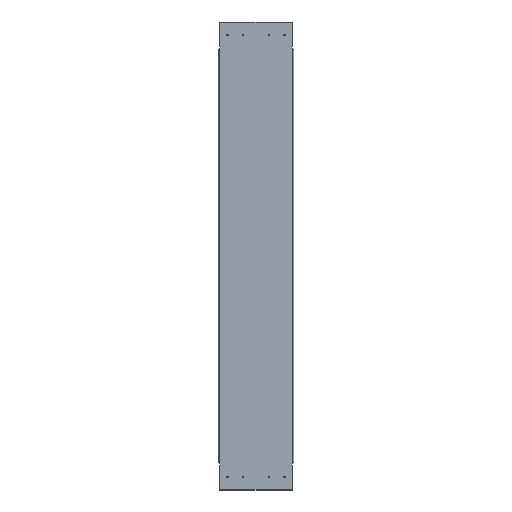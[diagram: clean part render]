
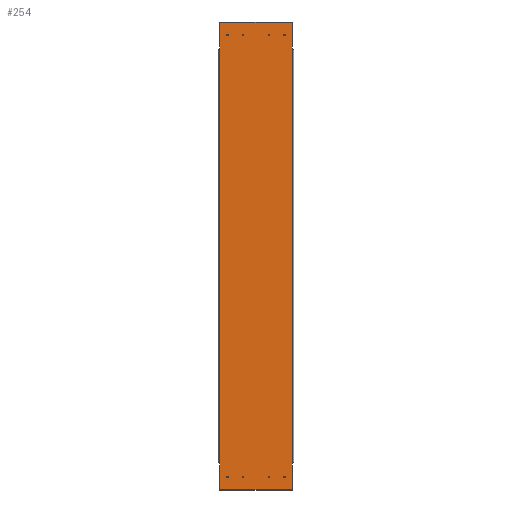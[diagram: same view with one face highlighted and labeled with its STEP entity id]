
A CAD part, top view. The second image highlights one B-rep face of the part: STEP entity #254.
In plain terms, the highlighted planar face has unit normal (0, 0, 1).
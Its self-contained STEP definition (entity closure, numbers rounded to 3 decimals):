
#59=CARTESIAN_POINT('',(1580.,-206.5,287.5));
#60=DIRECTION('',(-0.,-0.,1.));
#61=DIRECTION('',(0.,1.,0.));
#62=AXIS2_PLACEMENT_3D('',#59,#60,#61);
#63=PLANE('',#62);
#64=CARTESIAN_POINT('',(1590.,230.9,287.5));
#65=VERTEX_POINT('',#64);
#66=CARTESIAN_POINT('',(1590.,233.5,287.5));
#67=DIRECTION('',(-0.,-0.,1.));
#68=DIRECTION('',(0.,-1.,-0.));
#69=AXIS2_PLACEMENT_3D('',#66,#67,#68);
#70=CIRCLE('',#69,2.6);
#71=EDGE_CURVE('',#65,#65,#70,.T.);
#72=ORIENTED_EDGE('',*,*,#71,.F.);
#73=EDGE_LOOP('',(#72));
#74=FACE_BOUND('',#73,.T.);
#75=CARTESIAN_POINT('',(1530.,230.9,287.5));
#76=VERTEX_POINT('',#75);
#77=CARTESIAN_POINT('',(1530.,233.5,287.5));
#78=DIRECTION('',(-0.,-0.,1.));
#79=DIRECTION('',(0.,-1.,-0.));
#80=AXIS2_PLACEMENT_3D('',#77,#78,#79);
#81=CIRCLE('',#80,2.6);
#82=EDGE_CURVE('',#76,#76,#81,.T.);
#83=ORIENTED_EDGE('',*,*,#82,.F.);
#84=EDGE_LOOP('',(#83));
#85=FACE_BOUND('',#84,.T.);
#86=CARTESIAN_POINT('',(1430.,230.9,287.5));
#87=VERTEX_POINT('',#86);
#88=CARTESIAN_POINT('',(1430.,233.5,287.5));
#89=DIRECTION('',(-0.,-0.,1.));
#90=DIRECTION('',(0.,-1.,-0.));
#91=AXIS2_PLACEMENT_3D('',#88,#89,#90);
#92=CIRCLE('',#91,2.6);
#93=EDGE_CURVE('',#87,#87,#92,.T.);
#94=ORIENTED_EDGE('',*,*,#93,.F.);
#95=EDGE_LOOP('',(#94));
#96=FACE_BOUND('',#95,.T.);
#97=CARTESIAN_POINT('',(1370.,230.9,287.5));
#98=VERTEX_POINT('',#97);
#99=CARTESIAN_POINT('',(1370.,233.5,287.5));
#100=DIRECTION('',(-0.,-0.,1.));
#101=DIRECTION('',(0.,-1.,-0.));
#102=AXIS2_PLACEMENT_3D('',#99,#100,#101);
#103=CIRCLE('',#102,2.6);
#104=EDGE_CURVE('',#98,#98,#103,.T.);
#105=ORIENTED_EDGE('',*,*,#104,.F.);
#106=EDGE_LOOP('',(#105));
#107=FACE_BOUND('',#106,.T.);
#108=CARTESIAN_POINT('',(1590.,1930.9,287.5));
#109=VERTEX_POINT('',#108);
#110=CARTESIAN_POINT('',(1590.,1933.5,287.5));
#111=DIRECTION('',(-0.,-0.,1.));
#112=DIRECTION('',(0.,-1.,-0.));
#113=AXIS2_PLACEMENT_3D('',#110,#111,#112);
#114=CIRCLE('',#113,2.6);
#115=EDGE_CURVE('',#109,#109,#114,.T.);
#116=ORIENTED_EDGE('',*,*,#115,.F.);
#117=EDGE_LOOP('',(#116));
#118=FACE_BOUND('',#117,.T.);
#119=CARTESIAN_POINT('',(1530.,1930.9,287.5));
#120=VERTEX_POINT('',#119);
#121=CARTESIAN_POINT('',(1530.,1933.5,287.5));
#122=DIRECTION('',(-0.,-0.,1.));
#123=DIRECTION('',(0.,-1.,-0.));
#124=AXIS2_PLACEMENT_3D('',#121,#122,#123);
#125=CIRCLE('',#124,2.6);
#126=EDGE_CURVE('',#120,#120,#125,.T.);
#127=ORIENTED_EDGE('',*,*,#126,.F.);
#128=EDGE_LOOP('',(#127));
#129=FACE_BOUND('',#128,.T.);
#130=CARTESIAN_POINT('',(1370.,1930.9,287.5));
#131=VERTEX_POINT('',#130);
#132=CARTESIAN_POINT('',(1370.,1933.5,287.5));
#133=DIRECTION('',(-0.,-0.,1.));
#134=DIRECTION('',(0.,-1.,-0.));
#135=AXIS2_PLACEMENT_3D('',#132,#133,#134);
#136=CIRCLE('',#135,2.6);
#137=EDGE_CURVE('',#131,#131,#136,.T.);
#138=ORIENTED_EDGE('',*,*,#137,.F.);
#139=EDGE_LOOP('',(#138));
#140=FACE_BOUND('',#139,.T.);
#141=CARTESIAN_POINT('',(1430.,1930.9,287.5));
#142=VERTEX_POINT('',#141);
#143=CARTESIAN_POINT('',(1430.,1933.5,287.5));
#144=DIRECTION('',(-0.,-0.,1.));
#145=DIRECTION('',(0.,-1.,-0.));
#146=AXIS2_PLACEMENT_3D('',#143,#144,#145);
#147=CIRCLE('',#146,2.6);
#148=EDGE_CURVE('',#142,#142,#147,.T.);
#149=ORIENTED_EDGE('',*,*,#148,.F.);
#150=EDGE_LOOP('',(#149));
#151=FACE_BOUND('',#150,.T.);
#152=CARTESIAN_POINT('',(1620.,287.5,287.5));
#153=VERTEX_POINT('',#152);
#154=CARTESIAN_POINT('',(1620.,184.5,287.5));
#155=VERTEX_POINT('',#154);
#156=CARTESIAN_POINT('',(1620.,287.5,287.5));
#157=DIRECTION('',(0.,-1.,-0.));
#158=VECTOR('',#157,103.);
#159=LINE('',#156,#158);
#160=EDGE_CURVE('',#153,#155,#159,.T.);
#161=ORIENTED_EDGE('',*,*,#160,.F.);
#162=CARTESIAN_POINT('',(1620.,1879.5,287.5));
#163=VERTEX_POINT('',#162);
#164=CARTESIAN_POINT('',(1620.,287.5,287.5));
#165=DIRECTION('',(0.,1.,0.));
#166=VECTOR('',#165,1592.);
#167=LINE('',#164,#166);
#168=EDGE_CURVE('',#153,#163,#167,.T.);
#169=ORIENTED_EDGE('',*,*,#168,.T.);
#170=CARTESIAN_POINT('',(1620.,1982.5,287.5));
#171=VERTEX_POINT('',#170);
#172=CARTESIAN_POINT('',(1620.,1879.5,287.5));
#173=DIRECTION('',(0.,1.,0.));
#174=VECTOR('',#173,103.);
#175=LINE('',#172,#174);
#176=EDGE_CURVE('',#163,#171,#175,.T.);
#177=ORIENTED_EDGE('',*,*,#176,.T.);
#178=CARTESIAN_POINT('',(1619.,1983.5,287.5));
#179=VERTEX_POINT('',#178);
#180=CARTESIAN_POINT('',(1619.,1982.5,287.5));
#181=DIRECTION('',(-0.,-0.,1.));
#182=DIRECTION('',(0.,-1.,-0.));
#183=AXIS2_PLACEMENT_3D('',#180,#181,#182);
#184=CIRCLE('',#183,1.);
#185=EDGE_CURVE('',#171,#179,#184,.T.);
#186=ORIENTED_EDGE('',*,*,#185,.T.);
#187=CARTESIAN_POINT('',(1341.,1983.5,287.5));
#188=VERTEX_POINT('',#187);
#189=CARTESIAN_POINT('',(1619.,1983.5,287.5));
#190=DIRECTION('',(-1.,0.,0.));
#191=VECTOR('',#190,278.);
#192=LINE('',#189,#191);
#193=EDGE_CURVE('',#179,#188,#192,.T.);
#194=ORIENTED_EDGE('',*,*,#193,.T.);
#195=CARTESIAN_POINT('',(1340.,1982.5,287.5));
#196=VERTEX_POINT('',#195);
#197=CARTESIAN_POINT('',(1341.,1982.5,287.5));
#198=DIRECTION('',(-0.,-0.,1.));
#199=DIRECTION('',(0.,-1.,-0.));
#200=AXIS2_PLACEMENT_3D('',#197,#198,#199);
#201=CIRCLE('',#200,1.);
#202=EDGE_CURVE('',#188,#196,#201,.T.);
#203=ORIENTED_EDGE('',*,*,#202,.T.);
#204=CARTESIAN_POINT('',(1340.,1879.5,287.5));
#205=VERTEX_POINT('',#204);
#206=CARTESIAN_POINT('',(1340.,1879.5,287.5));
#207=DIRECTION('',(0.,1.,0.));
#208=VECTOR('',#207,103.);
#209=LINE('',#206,#208);
#210=EDGE_CURVE('',#205,#196,#209,.T.);
#211=ORIENTED_EDGE('',*,*,#210,.F.);
#212=CARTESIAN_POINT('',(1340.,287.5,287.5));
#213=VERTEX_POINT('',#212);
#214=CARTESIAN_POINT('',(1340.,1879.5,287.5));
#215=DIRECTION('',(-0.,-1.,-0.));
#216=VECTOR('',#215,1592.);
#217=LINE('',#214,#216);
#218=EDGE_CURVE('',#205,#213,#217,.T.);
#219=ORIENTED_EDGE('',*,*,#218,.T.);
#220=CARTESIAN_POINT('',(1340.,184.5,287.5));
#221=VERTEX_POINT('',#220);
#222=CARTESIAN_POINT('',(1340.,287.5,287.5));
#223=DIRECTION('',(0.,-1.,-0.));
#224=VECTOR('',#223,103.);
#225=LINE('',#222,#224);
#226=EDGE_CURVE('',#213,#221,#225,.T.);
#227=ORIENTED_EDGE('',*,*,#226,.T.);
#228=CARTESIAN_POINT('',(1341.,183.5,287.5));
#229=VERTEX_POINT('',#228);
#230=CARTESIAN_POINT('',(1341.,184.5,287.5));
#231=DIRECTION('',(-0.,-0.,1.));
#232=DIRECTION('',(0.,-1.,-0.));
#233=AXIS2_PLACEMENT_3D('',#230,#231,#232);
#234=CIRCLE('',#233,1.);
#235=EDGE_CURVE('',#221,#229,#234,.T.);
#236=ORIENTED_EDGE('',*,*,#235,.T.);
#237=CARTESIAN_POINT('',(1619.,183.5,287.5));
#238=VERTEX_POINT('',#237);
#239=CARTESIAN_POINT('',(1619.,183.5,287.5));
#240=DIRECTION('',(-1.,0.,0.));
#241=VECTOR('',#240,278.);
#242=LINE('',#239,#241);
#243=EDGE_CURVE('',#238,#229,#242,.T.);
#244=ORIENTED_EDGE('',*,*,#243,.F.);
#245=CARTESIAN_POINT('',(1619.,184.5,287.5));
#246=DIRECTION('',(-0.,-0.,1.));
#247=DIRECTION('',(0.,-1.,-0.));
#248=AXIS2_PLACEMENT_3D('',#245,#246,#247);
#249=CIRCLE('',#248,1.);
#250=EDGE_CURVE('',#238,#155,#249,.T.);
#251=ORIENTED_EDGE('',*,*,#250,.T.);
#252=EDGE_LOOP('',(#161,#169,#177,#186,#194,#203,#211,#219,#227,#236,#244,#251));
#253=FACE_BOUND('',#252,.T.);
#254=ADVANCED_FACE('',(#74,#85,#96,#107,#118,#129,#140,#151,#253),#63,.T.);
